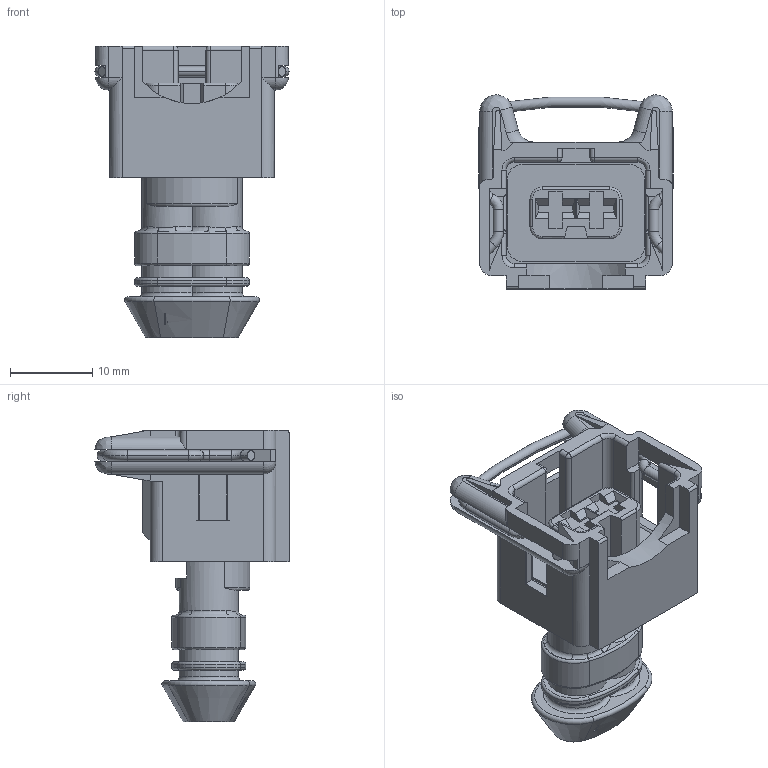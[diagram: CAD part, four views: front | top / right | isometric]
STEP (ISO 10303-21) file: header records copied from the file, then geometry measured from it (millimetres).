
FILE_DESCRIPTION((''),'2;1');
FILE_NAME('C-963040-3','2010-02-10T',('workeradm'),(''),'PRO/ENGINEER BY PARAMETRIC TECHNOLOGY CORPORATION, 2008380','PRO/ENGINEER BY PARAMETRIC TECHNOLOGY CORPORATION, 2008380','');
FILE_SCHEMA(('AUTOMOTIVE_DESIGN { 1 0 10303 214 1 1 1 1 }'));
Length unit declared in the file: millimetre
Products named in the file (1): C-963040-3
Bounding box: 23.6 x 23.6 x 35.5 mm (x, y, z)
Volume: 5159.1 mm3; surface area: 4449.8 mm2
Topology: 2 solids, 2 shells, 378 faces, 974 edges, 602 vertices
Faces by surface type: plane 189, cylinder 108, torus 60, bspline 12, cone 5, sphere 4
Entity records: 14599 total; most frequent: CARTESIAN_POINT 5272, DIRECTION 1982, ORIENTED_EDGE 1948, EDGE_CURVE 974, AXIS2_PLACEMENT_3D 708, VERTEX_POINT 602, VECTOR 566, LINE 566
